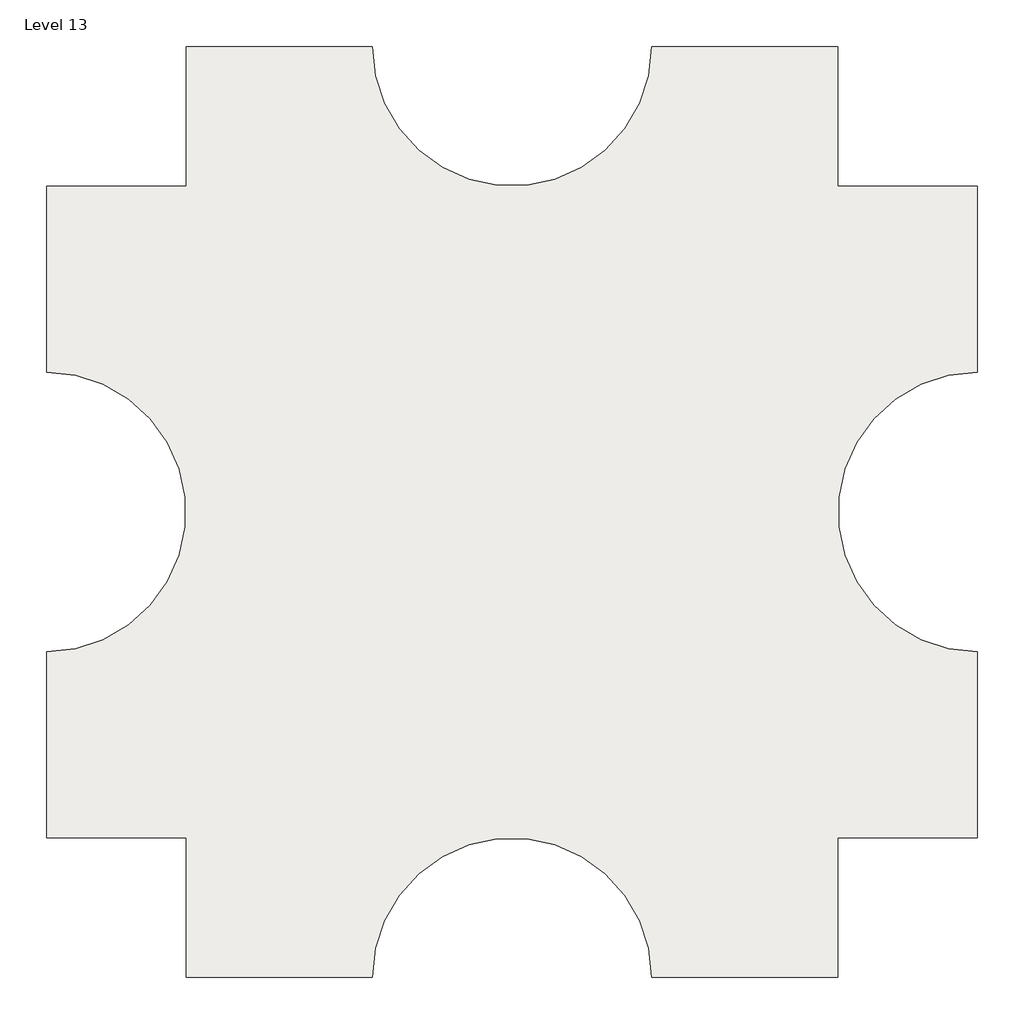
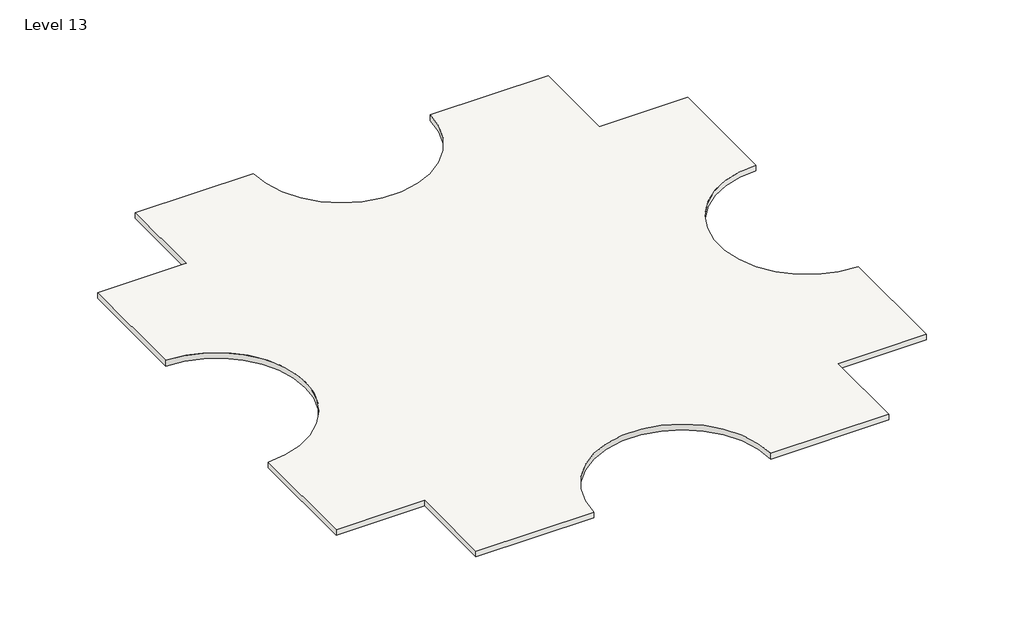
# One storey: 1 slab.
"""IFC4 building model written with IfcOpenShell, lengths in millimetres."""

import ifcopenshell
import ifcopenshell.guid

model = None  # the IFC model being written
_history = None  # IfcOwnerHistory: only IFC2X3 demands one
_inside = {}  # id of a spatial element -> (the spatial element, [elements in it])
_under = {}  # id of a project, library or spatial element -> (it, [spatial elements below it])
_declared = {}  # id of a project -> (the project, [libraries it declares])
_typed = {}  # id of a type object -> (the type object, [elements of that type])
_made_of = {}  # id of a material, layer set ... -> (it, [elements and type objects made of it])


def new_model(schema):
    """Start an empty IFC model of exactly this schema.

    Asked for "IFC4X3", IfcOpenShell would pick the latest addendum, in which some entities
    have other attributes; the version numbers below select the first issue.
    IFC2X3 requires an IfcOwnerHistory on every rooted entity: one is made here for all.
    """
    global model, _history
    if schema == "IFC4X3":
        model = ifcopenshell.file(schema_version=(4, 3, 0, 0))
    else:
        model = ifcopenshell.file(schema=schema)
    _inside.clear()
    _under.clear()
    _declared.clear()
    _typed.clear()
    _made_of.clear()
    _history = None
    if model.schema == "IFC2X3":
        org = make("IfcOrganization", Name="unknown")
        user = make(
            "IfcPersonAndOrganization",
            ThePerson=make("IfcPerson", FamilyName="unknown"),
            TheOrganization=org,
        )
        app = make(
            "IfcApplication",
            ApplicationDeveloper=org,
            Version="unknown",
            ApplicationFullName="unknown",
            ApplicationIdentifier="unknown",
        )
        _history = make(
            "IfcOwnerHistory",
            OwningUser=user,
            OwningApplication=app,
            ChangeAction="ADDED",
            CreationDate=0,
        )
    return model


def make(cls, **values):
    """One entity of the class cls with the attributes given. An attribute that is None is left unset."""
    return model.create_entity(
        cls, **{name: value for name, value in values.items() if value is not None}
    )


def rooted(cls, **values):
    """An entity with a GlobalId (a new one), such as an element, a storey or a relation."""
    return make(cls, GlobalId=ifcopenshell.guid.new(), OwnerHistory=_history, **values)


def si_unit(unit_type, name, prefix=None):
    """IfcSIUnit, for example si_unit("LENGTHUNIT", "METRE", prefix="MILLI")."""
    return make("IfcSIUnit", UnitType=unit_type, Prefix=prefix, Name=name)


def assignment(units):
    """IfcUnitAssignment: the units of a project."""
    return None if units is None else make("IfcUnitAssignment", Units=units)


def point(xyz):
    """IfcCartesianPoint."""
    return None if xyz is None else make("IfcCartesianPoint", Coordinates=xyz)


def direction(xyz):
    """IfcDirection."""
    return None if xyz is None else make("IfcDirection", DirectionRatios=xyz)


def frame(location, z_axis=None, x_axis=None):
    """IfcAxis2Placement3D, a coordinate frame: its origin and axes. An axis left out is left unset."""
    return make(
        "IfcAxis2Placement3D",
        Location=point(location),
        Axis=direction(z_axis),
        RefDirection=direction(x_axis),
    )


def frame_2d(location, x_axis=None):
    """IfcAxis2Placement2D, a coordinate frame in the plane: its origin and x axis."""
    return make(
        "IfcAxis2Placement2D", Location=point(location), RefDirection=direction(x_axis)
    )


def origin():
    """The frame at (0, 0, 0) with its axes left unset."""
    return frame((0.0, 0.0, 0.0))


def place(relative_to, where):
    """IfcLocalPlacement: puts the frame where relative to a parent placement (None: the world)."""
    return make(
        "IfcLocalPlacement", PlacementRelTo=relative_to, RelativePlacement=where
    )


def context(
    kind, dimensions, precision=None, world=None, true_north=None, identifier=None
):
    """IfcGeometricRepresentationContext, for example the 3D "Model" context."""
    return make(
        "IfcGeometricRepresentationContext",
        ContextIdentifier=identifier,
        ContextType=kind,
        CoordinateSpaceDimension=dimensions,
        Precision=precision,
        WorldCoordinateSystem=world,
        TrueNorth=true_north,
    )


def project(units=None, contexts=None):
    """IfcProject with its units and contexts."""
    return rooted(
        "IfcProject",
        Name="project",
        RepresentationContexts=contexts,
        UnitsInContext=assignment(units),
    )


def spatial(cls, under=None, at=None, **own):
    """A site, building, storey or space (cls), placed at a placement, below another one or the project."""
    s = rooted(cls, ObjectPlacement=at, **own)
    if under is not None:
        _under.setdefault(under.id(), (under, []))[1].append(s)
    return s


def polyline(points):
    """IfcPolyline through the points."""
    return make("IfcPolyline", Points=[point(p) for p in points])


def circle_curve(where, radius):
    """IfcCircle in the frame where."""
    return make("IfcCircle", Position=where, Radius=radius)


def trimmed(basis, trim1, trim2, sense, master):
    """IfcTrimmedCurve: the piece of a basis curve between two trims."""
    return make(
        "IfcTrimmedCurve",
        BasisCurve=basis,
        Trim1=trim1,
        Trim2=trim2,
        SenseAgreement=sense,
        MasterRepresentation=master,
    )


def segment(curve, same_sense, transition):
    """IfcCompositeCurveSegment."""
    return make(
        "IfcCompositeCurveSegment",
        Transition=transition,
        SameSense=same_sense,
        ParentCurve=curve,
    )


def composite_curve(segments, self_intersect=None):
    """IfcCompositeCurve: segments joined end to end."""
    return make("IfcCompositeCurve", Segments=segments, SelfIntersect=self_intersect)


def outline(outer, holes=None, kind="AREA"):
    """IfcArbitraryClosedProfileDef: a profile drawn as a closed curve; with holes, ...WithVoids."""
    if holes is None:
        return make("IfcArbitraryClosedProfileDef", ProfileType=kind, OuterCurve=outer)
    return make(
        "IfcArbitraryProfileDefWithVoids",
        ProfileType=kind,
        OuterCurve=outer,
        InnerCurves=holes,
    )


def extrude(swept, where, along, depth):
    """IfcExtrudedAreaSolid: the profile swept, set in the frame where, extruded along a direction by depth."""
    return make(
        "IfcExtrudedAreaSolid",
        SweptArea=swept,
        Position=where,
        ExtrudedDirection=direction(along),
        Depth=depth,
    )


def shape(context_of_items, identifier, shape_type, items):
    """IfcShapeRepresentation: the items that make up one representation, for example the "Body"."""
    return make(
        "IfcShapeRepresentation",
        ContextOfItems=context_of_items,
        RepresentationIdentifier=identifier,
        RepresentationType=shape_type,
        Items=items,
    )


def made_of(thing, what):
    """Note that an element or type object is made of a material, layer set ...; save() writes the relation."""
    if what is not None:
        _made_of.setdefault(what.id(), (what, []))[1].append(thing)
    return thing


def element(
    cls,
    number,
    at=None,
    inside=None,
    cuts=None,
    type_object=None,
    material=None,
    context=None,
    identifier="Body",
    shape_type=None,
    held_by="IfcProductDefinitionShape",
    body=None,
    shapes=None,
    **own,
):
    """One element of the class cls, such as IfcWall. Its Tag is "e" and its number.

    at: its placement. inside: the storey or other place that contains it. cuts: it is an
    opening in that element (IfcRelVoidsElement). A single representation is given by context,
    identifier, shape_type and body (its items); several are given by shapes. held_by: the class
    of the entity that holds the representations. save() writes the other relations.
    """
    e = rooted(cls, Tag="e%d" % number, ObjectPlacement=at, **own)
    if body is not None:
        shapes = [shape(context, identifier, shape_type, body)]
    if shapes is not None:
        e.Representation = make(held_by, Representations=shapes)
    if inside is not None:
        _inside.setdefault(inside.id(), (inside, []))[1].append(e)
    if cuts is not None:
        rooted(
            "IfcRelVoidsElement", RelatingBuildingElement=cuts, RelatedOpeningElement=e
        )
    if type_object is not None:
        _typed.setdefault(type_object.id(), (type_object, []))[1].append(e)
    return made_of(e, material)


def aggregate(whole, parts):
    """IfcRelAggregates: a whole, such as a stair, and the parts it consists of."""
    return rooted("IfcRelAggregates", RelatingObject=whole, RelatedObjects=parts)


def save(model, path):
    """Write the relations noted so far, then the file.

    IfcRelAggregates (storeys below a building ...), IfcRelContainedInSpatialStructure (elements
    in a storey), IfcRelDefinesByType, IfcRelAssociatesMaterial and IfcRelDeclares: one each for
    every whole, place, type object, material and project.
    """
    for whole, parts in _under.values():
        aggregate(whole, parts)
    for where, things in _inside.values():
        rooted(
            "IfcRelContainedInSpatialStructure",
            RelatedElements=things,
            RelatingStructure=where,
        )
    for kind, things in _typed.values():
        rooted("IfcRelDefinesByType", RelatedObjects=things, RelatingType=kind)
    for what, things in _made_of.values():
        rooted("IfcRelAssociatesMaterial", RelatedObjects=things, RelatingMaterial=what)
    for by, libraries in _declared.values():
        rooted("IfcRelDeclares", RelatingContext=by, RelatedDefinitions=libraries)
    model.write(path)


model = new_model("IFC4")

# Units and contexts
model_context = context("Model", 3, world=origin())
ifc_project = project(units=[si_unit("LENGTHUNIT", "METRE", prefix="MILLI")], contexts=[model_context])

# Site, building, storey
site = spatial("IfcSite", under=ifc_project)
building = spatial("IfcBuilding", under=site)
storey = spatial("IfcBuildingStorey", under=building, Name="Level 13", Elevation=36576.0)

# Slab
placement = place(None, origin())
element("IfcSlab", 1, ObjectType="Generic - 12\"", at=placement, inside=storey, context=model_context, shape_type="SweptSolid", body=[
    extrude(outline(composite_curve([segment(polyline([(-7150.3629456, 4479.6634547), (-7150.3629456, 9051.6634547), (-1054.3629456, 9051.6634547)]), True, "CONTINUOUS"), segment(trimmed(circle_curve(frame_2d((3517.6370544, 9051.6634547)), 4572.0), [point((-1054.3629456, 9051.6634547))], [point((8089.6370544, 9051.6634547))], True, "CARTESIAN"), True, "CONTINUOUS"), segment(polyline([(8089.6370544, 9051.6634547), (14185.6370544, 9051.6634547), (14185.6370544, 4479.6634547), (18757.6370544, 4479.6634547), (18757.6370544, -1616.3365453)]), True, "CONTINUOUS"), segment(trimmed(circle_curve(frame_2d((18757.6370544, -6188.3365453)), 4572.0), [point((18757.6370544, -1616.3365453))], [point((18757.6370544, -10760.3365453))], True, "CARTESIAN"), True, "CONTINUOUS"), segment(polyline([(18757.6370544, -10760.3365453), (18757.6370544, -16856.3365453), (14185.6370544, -16856.3365453), (14185.6370544, -21428.3365453), (8089.6370544, -21428.3365453)]), True, "CONTINUOUS"), segment(trimmed(circle_curve(frame_2d((3517.6370544, -21428.3365453)), 4572.0), [point((8089.6370544, -21428.3365453))], [point((-1054.3629456, -21428.3365453))], True, "CARTESIAN"), True, "CONTINUOUS"), segment(polyline([(-1054.3629456, -21428.3365453), (-7150.3629456, -21428.3365453), (-7150.3629456, -16856.3365453), (-11722.3629456, -16856.3365453), (-11722.3629456, -10760.3365453)]), True, "CONTINUOUS"), segment(trimmed(circle_curve(frame_2d((-11722.3629456, -6188.3365453)), 4572.0), [point((-11722.3629456, -10760.3365453))], [point((-11722.3629456, -1616.3365453))], True, "CARTESIAN"), True, "CONTINUOUS"), segment(polyline([(-11722.3629456, -1616.3365453), (-11722.3629456, 4479.6634547), (-7150.3629456, 4479.6634547)]), True, "CONTINUOUS")], self_intersect=False)), frame((0.0, 0.0, 36271.2), z_axis=(0.0, 0.0, 1.0), x_axis=(1.0, 0.0, 0.0)), (0.0, 0.0, 1.0), 304.8),
])

save(model, "model.ifc")
